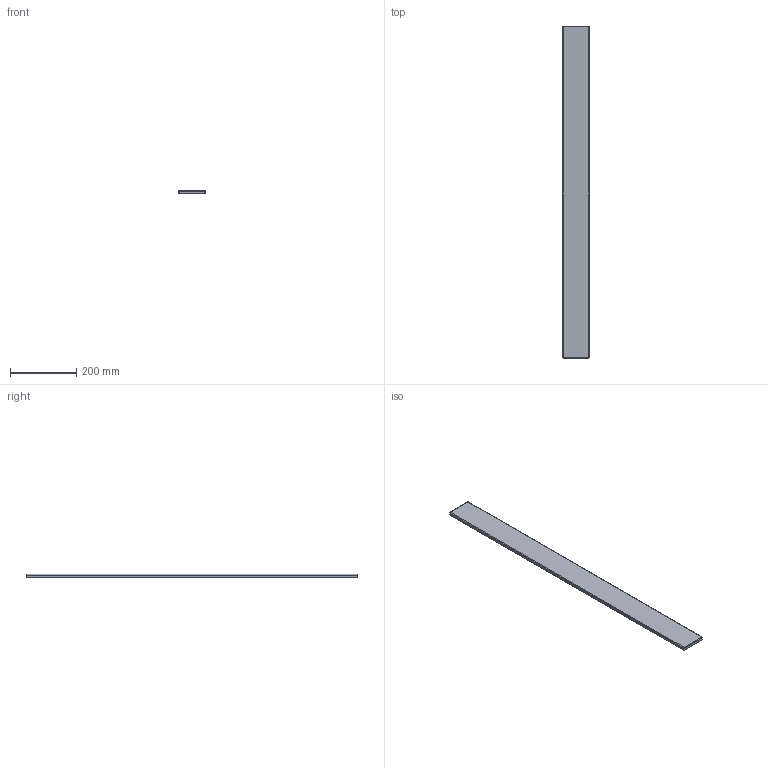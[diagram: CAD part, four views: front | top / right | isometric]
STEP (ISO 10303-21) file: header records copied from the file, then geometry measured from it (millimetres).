
FILE_DESCRIPTION(/* description */ ('Impex Ready, www.impex-ready.pl'),/* implementation_level */ '2;1');
FILE_NAME(/* name */ 'C:\Users\VIKKY\Nextcloud\SM\projekt 10 - części na stronę internetową\Pliki_3D_new\312 Płytki PG02\312 PG02_STEP\PG02.08010.1005.ipt.step',/* time_stamp */ '2021-12-17T17:02:41+01:00',/* author */ ('SM'),/* organization */ (''),/* preprocessor_version */ 'ST-DEVELOPER v18.1',/* originating_system */ 'Autodesk Inventor 2021',/* authorisation */ '');
FILE_SCHEMA (('AUTOMOTIVE_DESIGN { 1 0 10303 214 3 1 1 }'));
Length unit declared in the file: millimetre
Products named in the file (1): PG02.08010.1005
Bounding box: 80 x 1005 x 10 mm (x, y, z)
Volume: 801040.5 mm3; surface area: 179341.1 mm2
Topology: 1 solids, 1 shells, 22 faces, 48 edges, 28 vertices
Faces by surface type: plane 18, cylinder 4
Entity records: 669 total; most frequent: DIRECTION 106, CARTESIAN_POINT 99, ORIENTED_EDGE 96, EDGE_CURVE 48, LINE 36, VECTOR 36, AXIS2_PLACEMENT_3D 35, VERTEX_POINT 28
